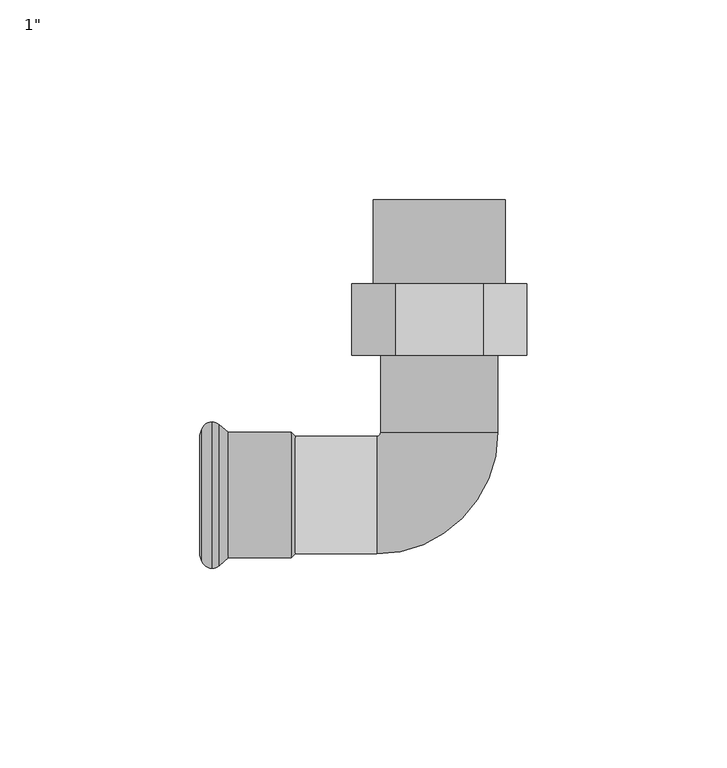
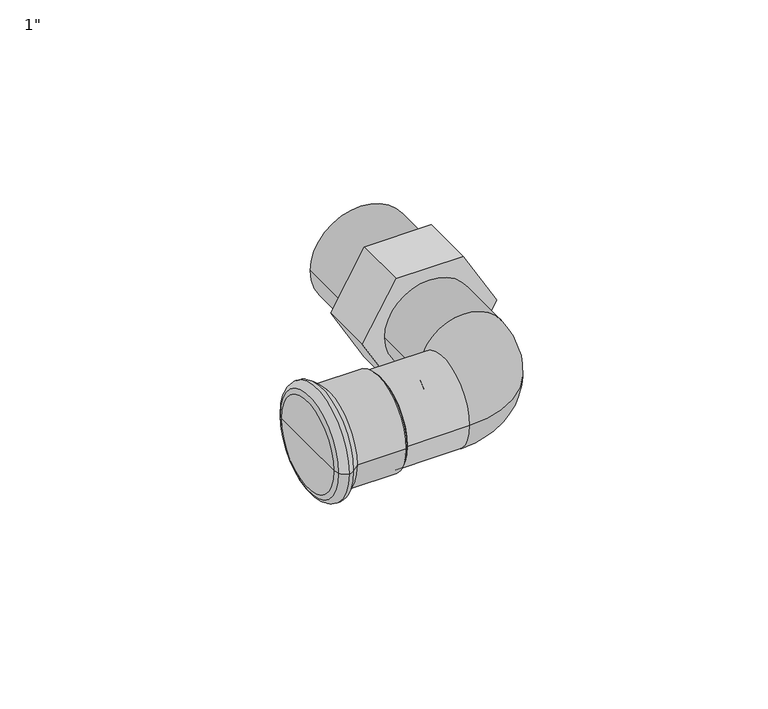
"""IFC4 building model written with IfcOpenShell, lengths in millimetres: pipe fitting geometry."""

from ifc_helpers import new_model, si_unit, point, frame, origin, origin_2d, place, context, project, spatial, polyline, circle_curve, ellipse_curve, trimmed, segment, composite_curve, outline, extrude, source, transform, mapped, element, save
from ifc_brep_helpers import plane_surface, cylinder_surface, revolved_surface, advanced_brep


def pipe_fitting_bfdfb1c6(model_context):
    return source(origin(), model_context, "Body", "SolidModel", [
        extrude(outline(composite_curve([segment(trimmed(circle_curve(origin_2d(), 16.5), [point((0.0, 16.5))], [point((0.0, -16.5))], False, "CARTESIAN"), True, "CONTINUOUS"), segment(trimmed(circle_curve(origin_2d(), 16.5), [point((0.0, -16.5))], [point((0.0, 16.5))], False, "CARTESIAN"), True, "CONTINUOUS")], self_intersect=False)), frame((0.0, 53.0, 0.0), z_axis=(0.0, 1.0, 0.0), x_axis=(0.0, 0.0, 1.0)), (0.0, 0.0, 1.0), 21.0),
        advanced_brep(
        [(-14.7, 35.0, 0.0), (14.7, 35.0, 0.0), (-14.7, 15.7, 0.0), (14.7, 15.7, 0.0), (-36.0, 14.7, 0.0), (-36.0, -14.7, 0.0), (-15.7, -14.7, 0.0), (-15.7, 14.7, 0.0)],
        [
            (0, 1, circle_curve(frame((0.0, 35.0, 0.0), z_axis=(0.0, 1.0, 0.0), x_axis=(1.0, 0.0, 0.0)), 14.7)),
            (1, 0, circle_curve(frame((0.0, 35.0, 0.0), z_axis=(0.0, 1.0, 0.0), x_axis=(1.0, 0.0, 0.0)), 14.7)),
            (0, 2),
            (2, 3, circle_curve(frame((0.0, 15.7, 0.0), z_axis=(0.0, 1.0, 0.0), x_axis=(1.0, 0.0, 0.0)), 14.7)),
            (3, 1),
            (3, 2, circle_curve(frame((0.0, 15.7, 0.0), z_axis=(0.0, 1.0, 0.0), x_axis=(1.0, 0.0, 0.0)), 14.7)),
            (4, 5, circle_curve(frame((-36.0, 0.0, 0.0), z_axis=(-1.0, 0.0, 0.0), x_axis=(0.0, -1.0, 0.0)), 14.7)),
            (5, 4, circle_curve(frame((-36.0, 0.0, 0.0), z_axis=(-1.0, 0.0, 0.0), x_axis=(0.0, -1.0, 0.0)), 14.7)),
            (6, 7, circle_curve(frame((-15.7, 0.0, 0.0), z_axis=(-1.0, 0.0, 0.0), x_axis=(0.0, -1.0, 0.0)), 14.7)),
            (7, 4),
            (5, 6),
            (7, 6, circle_curve(frame((-15.7, 0.0, 0.0), z_axis=(-1.0, 0.0, 0.0), x_axis=(0.0, -1.0, 0.0)), 14.7)),
            (6, 3, circle_curve(frame((-15.7, 15.7, 0.0), z_axis=(0.0, 0.0, 1.0), x_axis=(1.0, 0.0, 0.0)), 30.4)),
            (2, 7, circle_curve(frame((-15.7, 15.7, 0.0), z_axis=(0.0, 0.0, -1.0), x_axis=(1.0, 0.0, 0.0)), 1.0)),
        ],
        [
            plane_surface(frame((0.0, 35.0, 0.0), z_axis=(0.0, 1.0, 0.0), x_axis=(0.0, 0.0, 1.0))),
            cylinder_surface(frame((0.0, 35.0, 0.0), z_axis=(0.0, 1.0, 0.0), x_axis=(1.0, 0.0, 0.0)), 14.7),
            plane_surface(frame((-36.0, 0.0, 0.0), z_axis=(-1.0, 0.0, 0.0), x_axis=(0.0, 0.0, 1.0))),
            cylinder_surface(frame((-15.7, 0.0, 0.0), z_axis=(1.0, 0.0, 0.0), x_axis=(0.0, -1.0, 0.0)), 14.7),
            revolved_surface(trimmed(ellipse_curve(frame((0.0, 15.7, 0.0), z_axis=(0.0, 1.0, 0.0), x_axis=(1.0, 0.0, 0.0)), 14.7, 14.7), [point((-14.7, 15.7, 0.0))], [point((14.7, 15.7, 0.0))], True, "CARTESIAN"), (-15.7, 15.7, 0.0), (0.0, 0.0, -1.0)),
            revolved_surface(trimmed(ellipse_curve(frame((0.0, 15.7, 0.0), z_axis=(0.0, 1.0, 0.0), x_axis=(1.0, 0.0, 0.0)), 14.7, 14.7), [point((14.7, 15.7, 0.0))], [point((-14.7, 15.7, 0.0))], True, "CARTESIAN"), (-15.7, 15.7, 0.0), (0.0, 0.0, -1.0)),
        ],
        [
            (0, [[1, 2]]),
            (1, [[-1, 3, 4, 5]]),
            (1, [[-2, -5, 6, -3]]),
            (2, [[7, 8]]),
            (3, [[9, 10, -8, 11]]),
            (3, [[12, -11, -7, -10]]),
            (4, [[13, -4, 14, -9]]),
            (5, [[-14, -6, -13, -12]]),
        ],
    ),
        extrude(outline(polyline([(0.0, 21.9393102), (19.0, 10.9696551), (19.0, -10.9696551), (0.0, -21.9393102), (-19.0, -10.9696551), (-19.0, 10.9696551), (0.0, 21.9393102)])), frame((0.0, 35.0, 0.0), z_axis=(0.0, 1.0, 0.0), x_axis=(0.0, 0.0, 1.0)), (0.0, 0.0, 1.0), 18.0),
        advanced_brep(
        [(-52.7838092, -15.7, 0.0), (-52.7838092, 15.7, 0.0), (-37.0, 15.7, 0.0), (-37.0, -15.7, 0.0), (-55.0922627, -17.6370225, 0.0), (-55.0922627, 17.6370225, 0.0), (-56.8921278, -18.325, 0.0), (-56.8921278, 18.325, 0.0), (-59.432052, -16.5484544, 0.0), (-59.432052, 16.5484544, 0.0), (-60.0, -14.9880302, 0.0), (-60.0, 14.9880302, 0.0), (-60.0, 0.0, 0.0), (-36.0, 14.7, 0.0), (-36.0, -14.7, 0.0), (-36.0, 0.0, 0.0)],
        [
            (0, 1, circle_curve(frame((-52.7838092, 0.0, 0.0), z_axis=(1.0, 0.0, 0.0), x_axis=(0.0, 1.0, 0.0)), 15.7)),
            (1, 2),
            (2, 3, circle_curve(frame((-37.0, 0.0, 0.0), z_axis=(-1.0, 0.0, 0.0), x_axis=(0.0, 1.0, 0.0)), 15.7)),
            (3, 0),
            (1, 0, circle_curve(frame((-52.7838092, 0.0, 0.0), z_axis=(1.0, 0.0, 0.0), x_axis=(0.0, 1.0, 0.0)), 15.7)),
            (3, 2, circle_curve(frame((-37.0, 0.0, 0.0), z_axis=(-1.0, 0.0, 0.0), x_axis=(0.0, 1.0, 0.0)), 15.7)),
            (4, 5, circle_curve(frame((-55.0922627, 0.0, 0.0), z_axis=(1.0, 0.0, 0.0), x_axis=(0.0, 1.0, 0.0)), 17.6370225)),
            (5, 1),
            (0, 4),
            (5, 4, circle_curve(frame((-55.0922627, 0.0, 0.0), z_axis=(1.0, 0.0, 0.0), x_axis=(0.0, 1.0, 0.0)), 17.6370225)),
            (6, 7, circle_curve(frame((-56.8921278, 0.0, 0.0), z_axis=(1.0, 0.0, 0.0), x_axis=(0.0, 1.0, 0.0)), 18.325)),
            (7, 5, circle_curve(frame((-56.8935049, 15.6230333, 0.0), z_axis=(0.0, 0.0, -1.0), x_axis=(1.0, 0.0, 0.0)), 2.701967)),
            (4, 6, circle_curve(frame((-56.8935049, -15.6230333, 0.0), z_axis=(0.0, 0.0, -1.0), x_axis=(1.0, 0.0, 0.0)), 2.701967)),
            (7, 6, circle_curve(frame((-56.8921278, 0.0, 0.0), z_axis=(1.0, 0.0, 0.0), x_axis=(0.0, 1.0, 0.0)), 18.325)),
            (8, 9, circle_curve(frame((-59.432052, 0.0, 0.0), z_axis=(1.0, 0.0, 0.0), x_axis=(0.0, 1.0, 0.0)), 16.5484544)),
            (9, 7, circle_curve(frame((-56.89488, 15.6249993, 0.0), z_axis=(0.0, 0.0, -1.0), x_axis=(1.0, 0.0, 0.0)), 2.7000021)),
            (6, 8, circle_curve(frame((-56.89488, -15.6249993, 0.0), z_axis=(0.0, 0.0, -1.0), x_axis=(1.0, 0.0, 0.0)), 2.7000021)),
            (9, 8, circle_curve(frame((-59.432052, 0.0, 0.0), z_axis=(1.0, 0.0, 0.0), x_axis=(0.0, 1.0, 0.0)), 16.5484544)),
            (10, 11, circle_curve(frame((-60.0, 0.0, 0.0), z_axis=(1.0, 0.0, 0.0), x_axis=(0.0, 1.0, 0.0)), 14.9880302)),
            (11, 9),
            (8, 10),
            (11, 10, circle_curve(frame((-60.0, 0.0, 0.0), z_axis=(1.0, 0.0, 0.0), x_axis=(0.0, 1.0, 0.0)), 14.9880302)),
            (12, 11),
            (10, 12),
            (2, 13),
            (13, 14, circle_curve(frame((-36.0, 0.0, 0.0), z_axis=(-1.0, 0.0, 0.0), x_axis=(0.0, 1.0, 0.0)), 14.7)),
            (14, 3),
            (14, 13, circle_curve(frame((-36.0, 0.0, 0.0), z_axis=(-1.0, 0.0, 0.0), x_axis=(0.0, 1.0, 0.0)), 14.7)),
            (13, 15),
            (15, 14),
        ],
        [
            cylinder_surface(frame((1334.742668, 0.0, 0.0), z_axis=(-1.0, 0.0, 0.0), x_axis=(0.0, 1.0, 0.0)), 15.7),
            revolved_surface(polyline([(-52.7838092, 15.7, 0.0), (-55.0922627, 17.6370225, 0.0)]), (1334.742668, 0.0, 0.0), (-1.0, 0.0, 0.0)),
            revolved_surface(trimmed(ellipse_curve(frame((-56.8935049, 15.6230333, 0.0), z_axis=(0.0, 0.0, 1.0), x_axis=(1.0, 0.0, 0.0)), 2.701967, 2.701967), [point((-55.0922627, 17.6370225, 0.0))], [point((-56.8921278, 18.325, 0.0))], True, "CARTESIAN"), (1334.742668, 0.0, 0.0), (-1.0, 0.0, 0.0)),
            revolved_surface(trimmed(ellipse_curve(frame((-56.89488, 15.6249993, 0.0), z_axis=(0.0, 0.0, 1.0), x_axis=(1.0, 0.0, 0.0)), 2.7000021, 2.7000021), [point((-56.8921278, 18.325, 0.0))], [point((-59.432052, 16.5484544, 0.0))], True, "CARTESIAN"), (1334.742668, 0.0, 0.0), (-1.0, 0.0, 0.0)),
            revolved_surface(polyline([(-59.432052, 16.5484544, 0.0), (-60.0, 14.9880302, 0.0)]), (1334.742668, 0.0, 0.0), (-1.0, 0.0, 0.0)),
            plane_surface(frame((-60.0, 0.0, 0.0), z_axis=(-1.0, 0.0, 0.0), x_axis=(0.0, 1.0, 0.0))),
            revolved_surface(polyline([(-36.0, 14.7, 0.0), (-37.0, 15.7, 0.0)]), (1334.742668, 0.0, 0.0), (-1.0, 0.0, 0.0)),
            plane_surface(frame((-36.0, 0.0, 0.0), z_axis=(1.0, 0.0, 0.0), x_axis=(0.0, 1.0, 0.0))),
        ],
        [
            (0, [[1, 2, 3, 4]]),
            (0, [[5, -4, 6, -2]]),
            (1, [[7, 8, -1, 9]]),
            (1, [[10, -9, -5, -8]]),
            (2, [[11, 12, -7, 13]]),
            (2, [[14, -13, -10, -12]]),
            (3, [[15, 16, -11, 17]]),
            (3, [[18, -17, -14, -16]]),
            (4, [[19, 20, -15, 21]]),
            (4, [[22, -21, -18, -20]]),
            (5, [[23, -19, 24]]),
            (5, [[-24, -22, -23]]),
            (6, [[-3, 25, 26, 27]]),
            (6, [[-6, -27, 28, -25]]),
            (7, [[-26, 29, 30]]),
            (7, [[-28, -30, -29]]),
        ],
    ),
    ])


if __name__ == "__main__":
    model = new_model("IFC4")
    model_context = context("Model", 3, world=origin())
    ifc_project = project(units=[si_unit("LENGTHUNIT", "METRE", prefix="MILLI")], contexts=[model_context])
    site = spatial("IfcSite", under=ifc_project)
    building = spatial("IfcBuilding", under=site)
    placement = place(None, origin())
    pipe_fitting_shape = pipe_fitting_bfdfb1c6(model_context)
    element("IfcPipeFitting", 1, ObjectType="KAN-therm Steel kolano z GZ : 1\"", at=placement, inside=building, context=model_context, shape_type="MappedRepresentation", body=[
        mapped(pipe_fitting_shape, transform((0.0, 0.0, 0.0), x_axis=(1.0, 0.0, 0.0), y_axis=(0.0, 1.0, 0.0), z_axis=(0.0, 0.0, 1.0))),
    ])
    save(model, "model.ifc")
